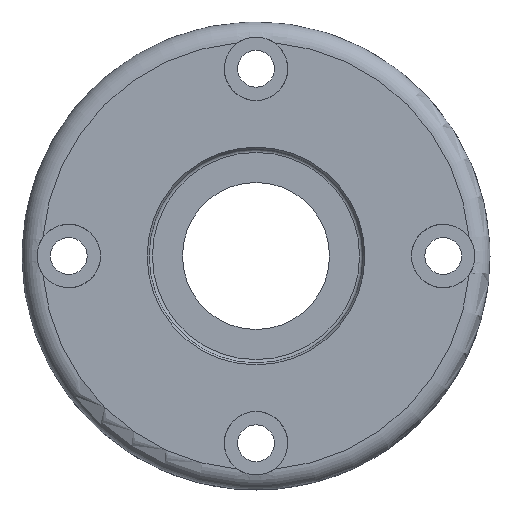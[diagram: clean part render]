
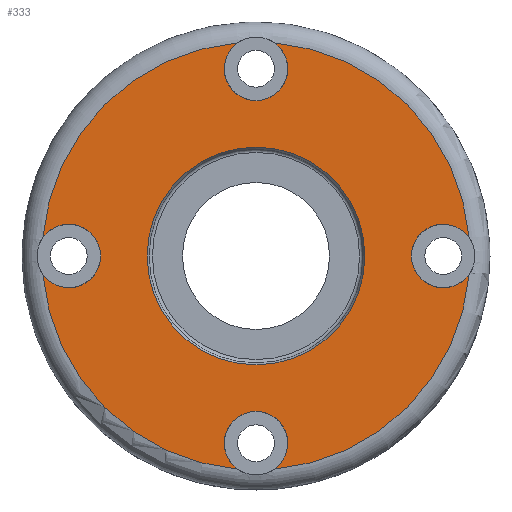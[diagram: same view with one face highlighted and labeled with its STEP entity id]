
A CAD part, left-side view. The second image highlights one B-rep face of the part: STEP entity #333.
In plain terms, the highlighted planar face has unit normal (-1, 0, 0).
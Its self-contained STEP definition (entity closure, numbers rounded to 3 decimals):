
#22=PLANE('',#390);
#37=FACE_BOUND('',#105,.T.);
#70=FACE_OUTER_BOUND('',#104,.T.);
#104=EDGE_LOOP('',(#261,#262,#263,#264,#265,#266,#267,#268));
#105=EDGE_LOOP('',(#269));
#141=CIRCLE('',#371,4.75);
#145=CIRCLE('',#378,4.75);
#149=CIRCLE('',#385,4.75);
#152=CIRCLE('',#391,32.);
#153=CIRCLE('',#392,4.75);
#154=CIRCLE('',#393,32.);
#155=CIRCLE('',#394,32.);
#156=CIRCLE('',#395,32.);
#157=CIRCLE('',#396,16.289);
#173=VERTEX_POINT('',#546);
#174=VERTEX_POINT('',#547);
#178=VERTEX_POINT('',#570);
#179=VERTEX_POINT('',#571);
#183=VERTEX_POINT('',#594);
#184=VERTEX_POINT('',#595);
#187=VERTEX_POINT('',#616);
#188=VERTEX_POINT('',#618);
#189=VERTEX_POINT('',#623);
#206=EDGE_CURVE('',#174,#173,#141,.T.);
#211=EDGE_CURVE('',#179,#178,#145,.T.);
#216=EDGE_CURVE('',#184,#183,#149,.T.);
#219=EDGE_CURVE('',#187,#173,#152,.T.);
#220=EDGE_CURVE('',#187,#188,#153,.T.);
#221=EDGE_CURVE('',#184,#188,#154,.T.);
#222=EDGE_CURVE('',#179,#183,#155,.T.);
#223=EDGE_CURVE('',#174,#178,#156,.T.);
#224=EDGE_CURVE('',#189,#189,#157,.T.);
#261=ORIENTED_EDGE('',*,*,#206,.T.);
#262=ORIENTED_EDGE('',*,*,#219,.F.);
#263=ORIENTED_EDGE('',*,*,#220,.T.);
#264=ORIENTED_EDGE('',*,*,#221,.F.);
#265=ORIENTED_EDGE('',*,*,#216,.T.);
#266=ORIENTED_EDGE('',*,*,#222,.F.);
#267=ORIENTED_EDGE('',*,*,#211,.T.);
#268=ORIENTED_EDGE('',*,*,#223,.F.);
#269=ORIENTED_EDGE('',*,*,#224,.F.);
#333=ADVANCED_FACE('',(#70,#37),#22,.T.);
#371=AXIS2_PLACEMENT_3D('',#560,#432,#433);
#378=AXIS2_PLACEMENT_3D('',#584,#446,#447);
#385=AXIS2_PLACEMENT_3D('',#608,#460,#461);
#390=AXIS2_PLACEMENT_3D('',#615,#470,#471);
#391=AXIS2_PLACEMENT_3D('',#617,#472,#473);
#392=AXIS2_PLACEMENT_3D('',#619,#474,#475);
#393=AXIS2_PLACEMENT_3D('',#620,#476,#477);
#394=AXIS2_PLACEMENT_3D('',#621,#478,#479);
#395=AXIS2_PLACEMENT_3D('',#622,#480,#481);
#396=AXIS2_PLACEMENT_3D('',#624,#482,#483);
#432=DIRECTION('center_axis',(1.,0.,0.));
#433=DIRECTION('ref_axis',(0.,-1.,0.));
#446=DIRECTION('center_axis',(1.,0.,0.));
#447=DIRECTION('ref_axis',(0.,0.,-1.));
#460=DIRECTION('center_axis',(1.,0.,0.));
#461=DIRECTION('ref_axis',(0.,1.,0.));
#470=DIRECTION('center_axis',(-1.,0.,0.));
#471=DIRECTION('ref_axis',(0.,0.,1.));
#472=DIRECTION('center_axis',(1.,0.,0.));
#473=DIRECTION('ref_axis',(0.,-1.,0.));
#474=DIRECTION('center_axis',(1.,0.,0.));
#475=DIRECTION('ref_axis',(0.,0.,1.));
#476=DIRECTION('center_axis',(1.,0.,0.));
#477=DIRECTION('ref_axis',(0.,-1.,0.));
#478=DIRECTION('center_axis',(1.,0.,0.));
#479=DIRECTION('ref_axis',(0.,-1.,0.));
#480=DIRECTION('center_axis',(1.,0.,0.));
#481=DIRECTION('ref_axis',(0.,-1.,0.));
#482=DIRECTION('center_axis',(-1.,0.,0.));
#483=DIRECTION('ref_axis',(0.,-1.,0.));
#546=CARTESIAN_POINT('',(0.,2.736,31.883));
#547=CARTESIAN_POINT('',(0.,-2.736,31.883));
#560=CARTESIAN_POINT('Origin',(0.,0.,
28.));
#570=CARTESIAN_POINT('',(0.,-31.883,2.736));
#571=CARTESIAN_POINT('',(0.,-31.883,-2.736));
#584=CARTESIAN_POINT('Origin',(0.,-28.,0.));
#594=CARTESIAN_POINT('',(0.,-2.736,-31.883));
#595=CARTESIAN_POINT('',(0.,2.736,-31.883));
#608=CARTESIAN_POINT('Origin',(0.,0.,
-28.));
#615=CARTESIAN_POINT('Origin',(0.,16.,0.));
#616=CARTESIAN_POINT('',(0.,31.883,2.736));
#617=CARTESIAN_POINT('Origin',(0.,0.,0.));
#618=CARTESIAN_POINT('',(0.,31.883,-2.736));
#619=CARTESIAN_POINT('Origin',(0.,28.,0.));
#620=CARTESIAN_POINT('Origin',(0.,0.,0.));
#621=CARTESIAN_POINT('Origin',(0.,0.,0.));
#622=CARTESIAN_POINT('Origin',(0.,0.,0.));
#623=CARTESIAN_POINT('',(0.,16.289,0.));
#624=CARTESIAN_POINT('Origin',(0.,0.,0.));
